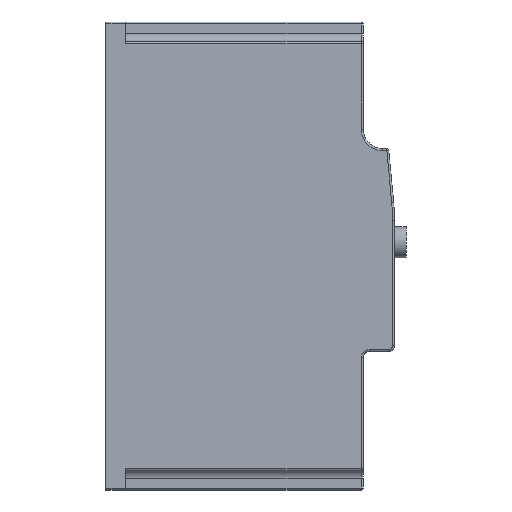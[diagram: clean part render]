
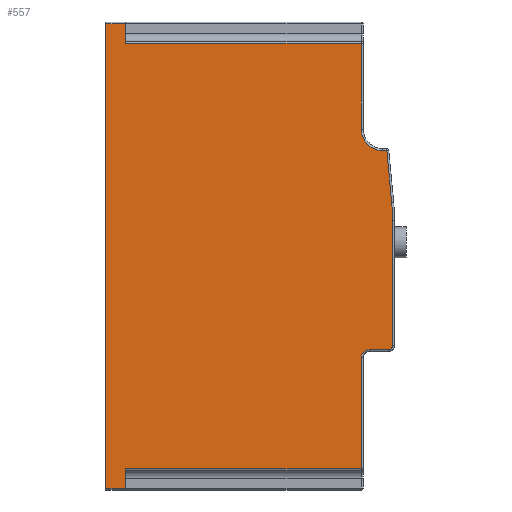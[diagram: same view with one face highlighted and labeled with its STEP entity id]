
A CAD part, front view. The second image highlights one B-rep face of the part: STEP entity #557.
In plain terms, the highlighted planar face has unit normal (0, -1, 0).
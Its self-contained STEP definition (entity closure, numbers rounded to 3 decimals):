
#557=ADVANCED_FACE('',(#2505),#2507,.T.);
#2505=FACE_BOUND('',#2506,.T.);
#2506=EDGE_LOOP('',(#4179,#4180,#4181,#4182,#4183,#4184,#4185,#4186,#4187,#4188,
#4189,#4190,#4191,#4192,#4193,#4194,#4195));
#2507=PLANE('',#2508);
#2508=AXIS2_PLACEMENT_3D('',#2509,#2510,#2511);
#2509=CARTESIAN_POINT('',(0.,-53.,120.));
#2510=DIRECTION('',(0.,-1.,0.));
#2511=DIRECTION('',(0.,0.,-1.));
#4179=ORIENTED_EDGE('',*,*,#5180,.T.);
#4180=ORIENTED_EDGE('',*,*,#5183,.T.);
#4181=ORIENTED_EDGE('',*,*,#5184,.T.);
#4182=ORIENTED_EDGE('',*,*,#5185,.F.);
#4183=ORIENTED_EDGE('',*,*,#5186,.T.);
#4184=ORIENTED_EDGE('',*,*,#5187,.T.);
#4185=ORIENTED_EDGE('',*,*,#5188,.T.);
#4186=ORIENTED_EDGE('',*,*,#5189,.T.);
#4187=ORIENTED_EDGE('',*,*,#5190,.T.);
#4188=ORIENTED_EDGE('',*,*,#5191,.T.);
#4189=ORIENTED_EDGE('',*,*,#5192,.T.);
#4190=ORIENTED_EDGE('',*,*,#5193,.T.);
#4191=ORIENTED_EDGE('',*,*,#5194,.F.);
#4192=ORIENTED_EDGE('',*,*,#5195,.T.);
#4193=ORIENTED_EDGE('',*,*,#5131,.T.);
#4194=ORIENTED_EDGE('',*,*,#5129,.F.);
#4195=ORIENTED_EDGE('',*,*,#5120,.T.);
#5120=EDGE_CURVE('',#5775,#5772,#5776,.T.);
#5129=EDGE_CURVE('',#5775,#5791,#5792,.T.);
#5131=EDGE_CURVE('',#5794,#5791,#5795,.T.);
#5180=EDGE_CURVE('',#5772,#5882,#5883,.T.);
#5183=EDGE_CURVE('',#5882,#5887,#5888,.T.);
#5184=EDGE_CURVE('',#5887,#5889,#5890,.F.);
#5185=EDGE_CURVE('',#5891,#5889,#5892,.T.);
#5186=EDGE_CURVE('',#5891,#5893,#5894,.T.);
#5187=EDGE_CURVE('',#5893,#5895,#5896,.T.);
#5188=EDGE_CURVE('',#5895,#5897,#5898,.T.);
#5189=EDGE_CURVE('',#5897,#5899,#5900,.T.);
#5190=EDGE_CURVE('',#5899,#5901,#5902,.T.);
#5191=EDGE_CURVE('',#5901,#5903,#5904,.T.);
#5192=EDGE_CURVE('',#5903,#5905,#5906,.T.);
#5193=EDGE_CURVE('',#5905,#5907,#5908,.T.);
#5194=EDGE_CURVE('',#5909,#5907,#5910,.T.);
#5195=EDGE_CURVE('',#5909,#5794,#5911,.F.);
#5772=VERTEX_POINT('',#6991);
#5775=VERTEX_POINT('',#6997);
#5776=LINE('',#6998,#6999);
#5791=VERTEX_POINT('',#7037);
#5792=LINE('',#7038,#7039);
#5794=VERTEX_POINT('',#7045);
#5795=LINE('',#7046,#7047);
#5882=VERTEX_POINT('',#7246);
#5883=LINE('',#7247,#7248);
#5887=VERTEX_POINT('',#7258);
#5888=LINE('',#7259,#7260);
#5889=VERTEX_POINT('',#7262);
#5890=LINE('',#7263,#7264);
#5891=VERTEX_POINT('',#7266);
#5892=LINE('',#7267,#7268);
#5893=VERTEX_POINT('',#7270);
#5894=CIRCLE('',#7271,4.);
#5895=VERTEX_POINT('',#7275);
#5896=LINE('',#7276,#7277);
#5897=VERTEX_POINT('',#7279);
#5898=CIRCLE('',#7280,2.);
#5899=VERTEX_POINT('',#7284);
#5900=LINE('',#7285,#7286);
#5901=VERTEX_POINT('',#7288);
#5902=CIRCLE('',#7289,99.);
#5903=VERTEX_POINT('',#7293);
#5904=LINE('',#7294,#7295);
#5905=VERTEX_POINT('',#7297);
#5906=LINE('',#7298,#7299);
#5907=VERTEX_POINT('',#7301);
#5908=CIRCLE('',#7302,11.);
#5909=VERTEX_POINT('',#7306);
#5910=LINE('',#7307,#7308);
#5911=LINE('',#7310,#7311);
#6991=CARTESIAN_POINT('',(0.,-53.,-119.));
#6997=CARTESIAN_POINT('',(0.,-53.,119.));
#6998=CARTESIAN_POINT('',(0.,-53.,119.));
#6999=VECTOR('',#7000,1.);
#7000=DIRECTION('',(0.,0.,-1.));
#7037=CARTESIAN_POINT('',(10.,-53.,119.));
#7038=CARTESIAN_POINT('',(0.,-53.,119.));
#7039=VECTOR('',#7040,1.);
#7040=DIRECTION('',(1.,0.,0.));
#7045=CARTESIAN_POINT('',(10.,-53.,109.));
#7046=CARTESIAN_POINT('',(10.,-53.,109.));
#7047=VECTOR('',#7048,1.);
#7048=DIRECTION('',(0.,0.,1.));
#7246=CARTESIAN_POINT('',(10.,-53.,-119.));
#7247=CARTESIAN_POINT('',(0.,-53.,-119.));
#7248=VECTOR('',#7249,1.);
#7249=DIRECTION('',(1.,0.,0.));
#7258=CARTESIAN_POINT('',(10.,-53.,-109.));
#7259=CARTESIAN_POINT('',(10.,-53.,-119.));
#7260=VECTOR('',#7261,1.);
#7261=DIRECTION('',(0.,0.,1.));
#7262=CARTESIAN_POINT('',(131.,-53.,-109.));
#7263=CARTESIAN_POINT('',(131.,-53.,-109.));
#7264=VECTOR('',#7265,1.);
#7265=DIRECTION('',(-1.,0.,0.));
#7266=CARTESIAN_POINT('',(131.,-53.,-52.));
#7267=CARTESIAN_POINT('',(131.,-53.,-52.));
#7268=VECTOR('',#7269,1.);
#7269=DIRECTION('',(0.,0.,-1.));
#7270=CARTESIAN_POINT('',(135.,-53.,-48.));
#7271=AXIS2_PLACEMENT_3D('',#7272,#7273,#7274);
#7272=CARTESIAN_POINT('',(135.,-53.,-52.));
#7273=DIRECTION('',(0.,1.,0.));
#7274=DIRECTION('',(-1.,0.,0.));
#7275=CARTESIAN_POINT('',(145.,-53.,-48.));
#7276=CARTESIAN_POINT('',(135.,-53.,-48.));
#7277=VECTOR('',#7278,1.);
#7278=DIRECTION('',(1.,0.,0.));
#7279=CARTESIAN_POINT('',(147.,-53.,-46.));
#7280=AXIS2_PLACEMENT_3D('',#7281,#7282,#7283);
#7281=CARTESIAN_POINT('',(145.,-53.,-46.));
#7282=DIRECTION('',(0.,-1.,0.));
#7283=DIRECTION('',(0.,0.,-1.));
#7284=CARTESIAN_POINT('',(147.,-53.,18.323));
#7285=CARTESIAN_POINT('',(147.,-53.,-46.));
#7286=VECTOR('',#7287,1.);
#7287=DIRECTION('',(0.,0.,1.));
#7288=CARTESIAN_POINT('',(146.568,-53.,27.563));
#7289=AXIS2_PLACEMENT_3D('',#7290,#7291,#7292);
#7290=CARTESIAN_POINT('',(48.,-53.,18.323));
#7291=DIRECTION('',(0.,-1.,0.));
#7292=DIRECTION('',(1.,0.,0.));
#7293=CARTESIAN_POINT('',(144.089,-53.,54.));
#7294=CARTESIAN_POINT('',(146.568,-53.,27.563));
#7295=VECTOR('',#7296,1.);
#7296=DIRECTION('',(-0.093,0.,0.996));
#7297=CARTESIAN_POINT('',(142.,-53.,54.));
#7298=CARTESIAN_POINT('',(144.089,-53.,54.));
#7299=VECTOR('',#7300,1.);
#7300=DIRECTION('',(-1.,0.,0.));
#7301=CARTESIAN_POINT('',(131.,-53.,65.));
#7302=AXIS2_PLACEMENT_3D('',#7303,#7304,#7305);
#7303=CARTESIAN_POINT('',(142.,-53.,65.));
#7304=DIRECTION('',(0.,1.,0.));
#7305=DIRECTION('',(0.,0.,-1.));
#7306=CARTESIAN_POINT('',(131.,-53.,109.));
#7307=CARTESIAN_POINT('',(131.,-53.,109.));
#7308=VECTOR('',#7309,1.);
#7309=DIRECTION('',(0.,0.,-1.));
#7310=CARTESIAN_POINT('',(10.,-53.,109.));
#7311=VECTOR('',#7312,1.);
#7312=DIRECTION('',(1.,0.,0.));
